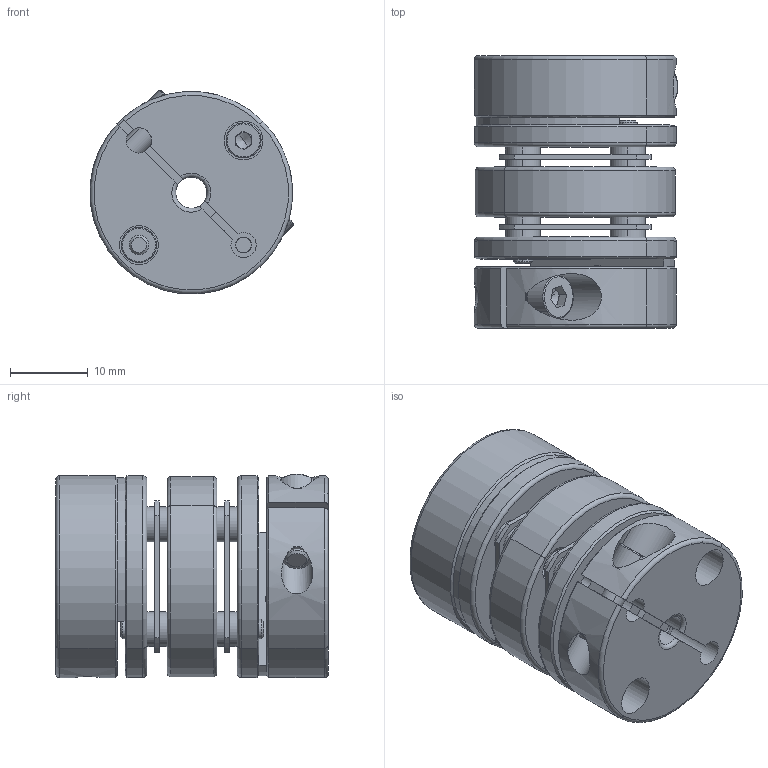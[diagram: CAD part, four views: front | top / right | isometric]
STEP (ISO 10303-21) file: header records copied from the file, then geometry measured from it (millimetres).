
FILE_DESCRIPTION (( 'STEP AP203' ), '1' );
FILE_NAME ('DXC-26X35-4-4.STEP', '2024-03-16T06:49:39', ( '' ), ( '' ), 'SwSTEP 2.0', 'SolidWorks 2020', '' );
FILE_SCHEMA (( 'CONFIG_CONTROL_DESIGN' ));
Length unit declared in the file: millimetre
Products named in the file (6): socket head cap screw_iso_ISO 4762 M2.5 x 6 - 6C; 26臚え薊粣ん傷裔-4; 26臚え倰笢潔璃; socket head cap screw_iso_ISO 4762 M3 x 10 - 10C; DXC-26X35-4-4; 26臚え郪
Assembly tree (15 placements, depth 2):
  DXC-26X35-4-4
    26臚え郪  x2
    socket head cap screw_iso_ISO 4762 M2.5 x 6 - 6C  x8
    socket head cap screw_iso_ISO 4762 M3 x 10 - 10C  x2
    26臚え倰笢潔璃
    26臚え薊粣ん傷裔-4  x2
Bounding box: 26.19 x 35 x 26.19 mm (x, y, z)
Volume: 13171.4 mm3; surface area: 11432.8 mm2
Topology: 15 solids, 15 shells, 520 faces, 1206 edges, 732 vertices
Faces by surface type: plane 210, cylinder 188, torus 64, cone 58
Entity records: 6761 total; most frequent: CARTESIAN_POINT 1180, DIRECTION 1089, ORIENTED_EDGE 902, EDGE_CURVE 451, AXIS2_PLACEMENT_3D 448, VERTEX_POINT 283, EDGE_LOOP 240, CIRCLE 240
